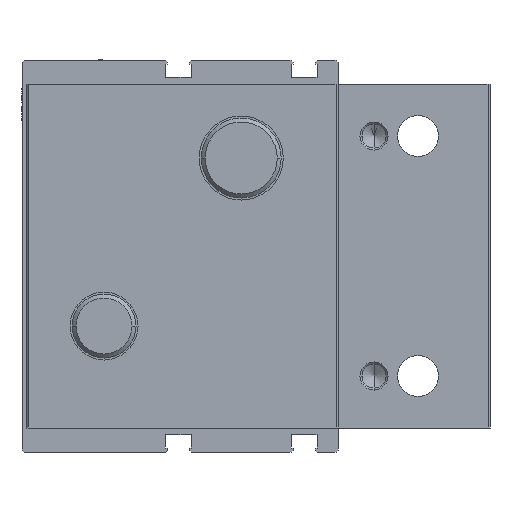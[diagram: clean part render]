
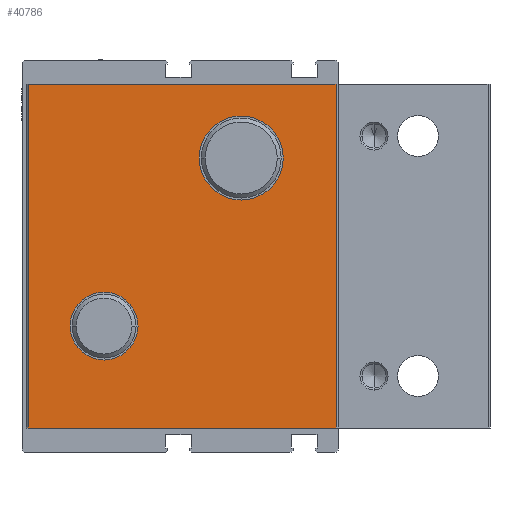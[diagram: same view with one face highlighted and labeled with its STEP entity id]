
A CAD part, left-side view. The second image highlights one B-rep face of the part: STEP entity #40786.
In plain terms, the highlighted planar face has unit normal (-1, 0, 0) as drawn and (1, 0, 0) by its records, which use the part's own axes.
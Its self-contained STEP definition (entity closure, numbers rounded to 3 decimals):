
#1670 = VECTOR ( 'NONE', #42820, 1000. ) ;
#2290 = DIRECTION ( 'NONE',  ( 0., 0., -1. ) ) ;
#2509 = VERTEX_POINT ( 'NONE', #36784 ) ;
#3747 = VECTOR ( 'NONE', #35504, 1000. ) ;
#4281 = VECTOR ( 'NONE', #44519, 1000. ) ;
#4692 = DIRECTION ( 'NONE',  ( -1., 0., 0. ) ) ;
#6491 = CARTESIAN_POINT ( 'NONE',  ( 28., 115.5, 43. ) ) ;
#6528 = EDGE_CURVE ( 'NONE', #2509, #33232, #41722, .T. ) ;
#6883 = CARTESIAN_POINT ( 'NONE',  ( 28., 62.2, -14. ) ) ;
#6897 = EDGE_CURVE ( 'NONE', #24791, #8143, #12919, .T. ) ;
#8143 = VERTEX_POINT ( 'NONE', #21408 ) ;
#8259 = FACE_BOUND ( 'NONE', #42590, .T. ) ;
#8277 = CARTESIAN_POINT ( 'NONE',  ( 28., 96.5, 26. ) ) ;
#8746 = ORIENTED_EDGE ( 'NONE', *, *, #11119, .T. ) ;
#9163 = LINE ( 'NONE', #39098, #1670 ) ;
#9267 = EDGE_CURVE ( 'NONE', #8143, #33232, #29016, .T. ) ;
#9368 = ORIENTED_EDGE ( 'NONE', *, *, #6897, .F. ) ;
#9992 = ORIENTED_EDGE ( 'NONE', *, *, #20625, .F. ) ;
#10568 = VECTOR ( 'NONE', #43770, 1000. ) ;
#11119 = EDGE_CURVE ( 'NONE', #42378, #38346, #17414, .T. ) ;
#11478 = EDGE_CURVE ( 'NONE', #26430, #18725, #29109, .T. ) ;
#12919 = LINE ( 'NONE', #18792, #4281 ) ;
#13951 = ORIENTED_EDGE ( 'NONE', *, *, #23986, .T. ) ;
#14598 = CARTESIAN_POINT ( 'NONE',  ( 28., 38.5, 43. ) ) ;
#16516 = AXIS2_PLACEMENT_3D ( 'NONE', #26772, #4692, #30461 ) ;
#16665 = AXIS2_PLACEMENT_3D ( 'NONE', #19446, #45190, #23157 ) ;
#16856 = DIRECTION ( 'NONE',  ( -1., 0., 0. ) ) ;
#16949 = FACE_BOUND ( 'NONE', #19860, .T. ) ;
#17414 = CIRCLE ( 'NONE', #44571, 10.5 ) ;
#18725 = VERTEX_POINT ( 'NONE', #8277 ) ;
#18792 = CARTESIAN_POINT ( 'NONE',  ( 28., 129.5, -43. ) ) ;
#19446 = CARTESIAN_POINT ( 'NONE',  ( 28., 96.5, 17.5 ) ) ;
#19860 = EDGE_LOOP ( 'NONE', ( #24359, #20914 ) ) ;
#20625 = EDGE_CURVE ( 'NONE', #2509, #24791, #9163, .T. ) ;
#20759 = CARTESIAN_POINT ( 'NONE',  ( 28., 129.5, 43. ) ) ;
#20914 = ORIENTED_EDGE ( 'NONE', *, *, #46349, .T. ) ;
#21408 = CARTESIAN_POINT ( 'NONE',  ( 28., 38.5, -43. ) ) ;
#21506 = DIRECTION ( 'NONE',  ( -1., 0., 0. ) ) ;
#21607 = CARTESIAN_POINT ( 'NONE',  ( 28., 38.5, 43. ) ) ;
#23157 = DIRECTION ( 'NONE',  ( 0., 0., -1. ) ) ;
#23986 = EDGE_CURVE ( 'NONE', #38346, #42378, #25182, .T. ) ;
#24359 = ORIENTED_EDGE ( 'NONE', *, *, #11478, .T. ) ;
#24369 = DIRECTION ( 'NONE',  ( -1., 0., 0. ) ) ;
#24791 = VERTEX_POINT ( 'NONE', #46415 ) ;
#24973 = ORIENTED_EDGE ( 'NONE', *, *, #6528, .T. ) ;
#25182 = CIRCLE ( 'NONE', #32834, 10.5 ) ;
#26430 = VERTEX_POINT ( 'NONE', #27087 ) ;
#26752 = EDGE_LOOP ( 'NONE', ( #9992, #24973, #41035, #9368 ) ) ;
#26772 = CARTESIAN_POINT ( 'NONE',  ( 28., 96.5, 17.5 ) ) ;
#27087 = CARTESIAN_POINT ( 'NONE',  ( 28., 96.5, 9. ) ) ;
#29016 = LINE ( 'NONE', #21607, #10568 ) ;
#29109 = CIRCLE ( 'NONE', #16516, 8.5 ) ;
#30021 = CIRCLE ( 'NONE', #16665, 8.5 ) ;
#30461 = DIRECTION ( 'NONE',  ( 0., 0., -1. ) ) ;
#32834 = AXIS2_PLACEMENT_3D ( 'NONE', #46426, #24369, #2290 ) ;
#33232 = VERTEX_POINT ( 'NONE', #14598 ) ;
#35330 = FACE_OUTER_BOUND ( 'NONE', #26752, .T. ) ;
#35504 = DIRECTION ( 'NONE',  ( 0., -1., 0. ) ) ;
#36784 = CARTESIAN_POINT ( 'NONE',  ( 28., 115.5, 43. ) ) ;
#38346 = VERTEX_POINT ( 'NONE', #6883 ) ;
#38836 = CARTESIAN_POINT ( 'NONE',  ( 28., 62.2, -24.5 ) ) ;
#39098 = CARTESIAN_POINT ( 'NONE',  ( 28., 115.5, 43. ) ) ;
#40786 = ADVANCED_FACE ( 'NONE', ( #35330, #16949, #8259 ), #43501, .F. ) ;
#41035 = ORIENTED_EDGE ( 'NONE', *, *, #9267, .F. ) ;
#41722 = LINE ( 'NONE', #20759, #3747 ) ;
#42378 = VERTEX_POINT ( 'NONE', #46714 ) ;
#42565 = DIRECTION ( 'NONE',  ( 0., 0., -1. ) ) ;
#42590 = EDGE_LOOP ( 'NONE', ( #8746, #13951 ) ) ;
#42820 = DIRECTION ( 'NONE',  ( 0., 0., -1. ) ) ;
#43501 = PLANE ( 'NONE',  #46225 ) ;
#43770 = DIRECTION ( 'NONE',  ( 0., 0., 1. ) ) ;
#44519 = DIRECTION ( 'NONE',  ( 0., -1., 0. ) ) ;
#44571 = AXIS2_PLACEMENT_3D ( 'NONE', #38836, #16856, #42565 ) ;
#45190 = DIRECTION ( 'NONE',  ( -1., 0., 0. ) ) ;
#46225 = AXIS2_PLACEMENT_3D ( 'NONE', #6491, #21506, #47277 ) ;
#46349 = EDGE_CURVE ( 'NONE', #18725, #26430, #30021, .T. ) ;
#46415 = CARTESIAN_POINT ( 'NONE',  ( 28., 115.5, -43. ) ) ;
#46426 = CARTESIAN_POINT ( 'NONE',  ( 28., 62.2, -24.5 ) ) ;
#46714 = CARTESIAN_POINT ( 'NONE',  ( 28., 62.2, -35. ) ) ;
#47277 = DIRECTION ( 'NONE',  ( 0., 0., 1. ) ) ;
